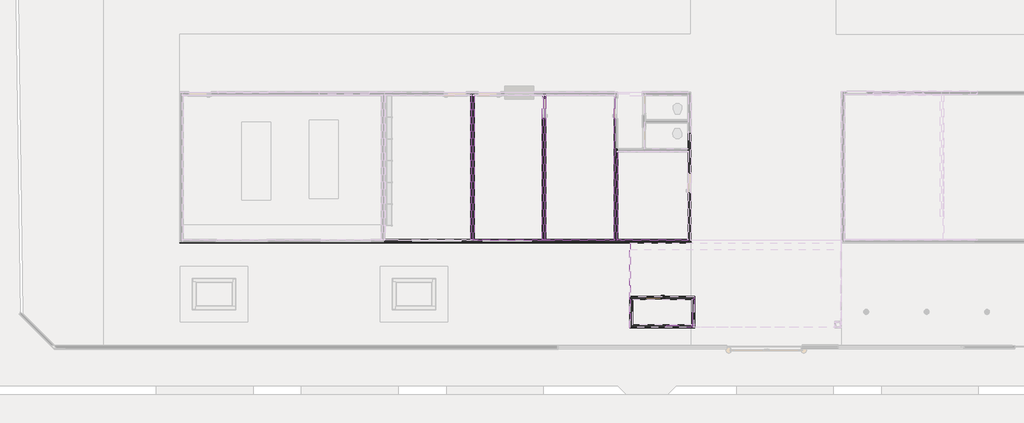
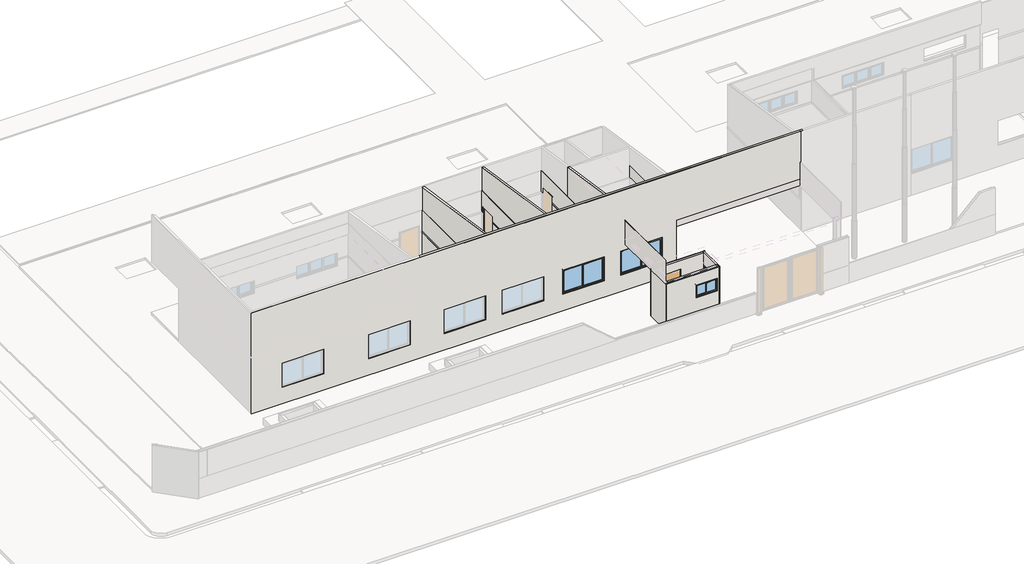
# One storey, part 3 of 28: 39 walls, 4 windows, 2 doors.
"""IFC4 building model written with IfcOpenShell, lengths in millimetres."""

from ifc_helpers import new_model, si_unit, frame, origin, place, context, project, spatial, polyline, outline, extrude, faceted_brep, transform, mapped, element, save
from components import door_95b59213, pf15_l82cm_686caa18, window_1x60_9757518d, window_2x1_20x1x10_9e9748dd

model = new_model("IFC4")

# Units and contexts
model_context = context("Model", 3, world=origin())
ifc_project = project(units=[si_unit("LENGTHUNIT", "METRE", prefix="MILLI")], contexts=[model_context])

# Site, building, storey
site = spatial("IfcSite", under=ifc_project)
building = spatial("IfcBuilding", under=site)
storey = spatial("IfcBuildingStorey", under=building, Name="Térreo", Elevation=0.0)

# Doors
placement = place(None, origin())
door_shape = door_95b59213(model_context)
element("IfcDoor", 1, ObjectType="FDE_SO_Soleiras1 : SO14_SoleiraRampadaDesnívelAté2cm_L=14cm_Cimentado 2", at=placement, inside=storey, context=model_context, shape_type="MappedRepresentation", body=[
    mapped(door_shape, transform((-35446.4091269, 2118.5326612, 0.0), x_axis=(-1.0, 0.0, 0.0), y_axis=(0.0, -1.0, 0.0), z_axis=(0.0, 0.0, 1.0))),
])
pf15_l82cm_shape = pf15_l82cm_686caa18(model_context)
element("IfcDoor", 2, ObjectType="FDE_PF15_PF16_PF17_PortaemChapadeFerro : PF15_L82cm", at=placement, inside=storey, context=model_context, shape_type="MappedRepresentation", body=[
    mapped(pf15_l82cm_shape, transform((-35446.4091269, 2123.5326612, 0.0), x_axis=(-1.0, 0.0, 0.0), y_axis=(0.0, -1.0, 0.0), z_axis=(0.0, 0.0, 1.0))),
])

# Walls
element("IfcWall", 3, ObjectType="FDE_S712_AlvenariadeTijoloCerâmico/Baiano_Alvenaria_9cm - Existente", at=placement, inside=storey, context=model_context, shape_type="Brep", body=[
    faceted_brep([(-34073.4091269, 4520.0000005, 3500.0), (-34073.4091269, 8930.0, 3500.0), (-34073.4091269, 8930.0, 0.0), (-34073.4091269, 7304.0, 0.0), (-34073.4091269, 7304.0, 220.0), (-34073.4091269, 7304.0, 1731.0528047), (-34073.4091269, 7304.0, 1824.9435125), (-34073.4091269, 7304.0, 2112.0), (-34073.4091269, 6470.0, 2112.0), (-34073.4091269, 6470.0, 1824.9435125), (-34073.4091269, 6470.0, 1731.0528047), (-34073.4091269, 6470.0, 220.0), (-34073.4091269, 6470.0, 0.0), (-34073.4091269, 4520.0000005, 0.0), (-33983.4091269, 8930.0, 3500.0), (-33983.4091269, 4520.0000005, 3500.0), (-33983.4091269, 4520.0000005, 0.0), (-33983.4091269, 6470.0, 0.0), (-33983.4091269, 6470.0, 2112.0), (-33983.4091269, 7304.0, 2112.0), (-33983.4091269, 7304.0, 0.0), (-33983.4091269, 8930.0, 0.0)], [[[0, 1, 2, 3, 4, 5, 6, 7, 8, 9, 10, 11, 12, 13]], [[14, 15, 16, 17, 18, 19, 20, 21]], [[16, 13, 12, 17]], [[2, 21, 20, 3]], [[1, 0, 15, 14]], [[2, 1, 14, 21]], [[19, 7, 6, 5, 4, 3, 20]], [[7, 19, 18, 8]], [[8, 18, 17, 12, 11, 10, 9]], [[13, 16, 15, 0]]]),
])
element("IfcWall", 4, ObjectType="FDE_S712_AlvenariadeTijoloCerâmico/Baiano_Alvenaria_9cm - Existente", at=placement, inside=storey, context=model_context, shape_type="SweptSolid", body=[
    extrude(outline(polyline([(0.0, -46653.4091269), (0.0, -34073.4091269), (3500.0, -34073.4091269), (3500.0, -46653.4091269), (0.0, -46653.4091269)]), holes=[polyline([(2235.0, -40538.4091269), (965.0, -40538.4091269), (965.0, -42608.4091269), (2235.0, -42608.4091269), (2235.0, -40538.4091269)]), polyline([(965.0, -39608.4091269), (2235.0, -39608.4091269), (2235.0, -37538.4091269), (965.0, -37538.4091269), (965.0, -39608.4091269)]), polyline([(965.0, -36708.4091269), (2235.0, -36708.4091269), (2235.0, -34638.4091269), (965.0, -34638.4091269), (965.0, -36708.4091269)]), polyline([(2235.0, -43438.4091269), (965.0, -43438.4091269), (965.0, -45508.4091269), (2235.0, -45508.4091269), (2235.0, -43438.4091269)])]), frame((0.0, 4430.0, 0.0), z_axis=(0.0, 1.0, 0.0), x_axis=(0.0, 0.0, 1.0)), (0.0, 0.0, 1.0), 90.0),
])
element("IfcWall", 5, ObjectType="FDE_S712_AlvenariadeTijoloCerâmico/Baiano_Alvenaria_9cm - Existente", at=placement, inside=storey, context=model_context, shape_type="Brep", body=[
    faceted_brep([(-46698.4091269, 4520.0000005, 5400.0), (-27614.5, 4520.0000005, 5400.0), (-27614.5, 4520.0000005, 3500.0), (-27720.0, 4520.0000005, 3500.0), (-27720.0, 4520.0000005, 2530.0), (-33953.4091269, 4520.0000005, 2530.0), (-33953.4091269, 4520.0000005, 1824.9435125), (-33953.4091269, 4520.0000005, 1731.0528047), (-33983.4091269, 4520.0000005, 1731.0528047), (-33983.4091269, 4520.0000005, 0.0), (-37023.4091269, 4520.0000005, 0.0), (-37113.4091269, 4520.0000005, 0.0), (-39993.4091269, 4520.0000005, 0.0), (-40083.4091269, 4520.0000005, 0.0), (-42963.4091269, 4520.0000005, 0.0), (-43053.4091269, 4520.0000005, 0.0), (-46653.4091269, 4520.0000005, 0.0), (-46653.4091269, 4520.0000005, 1824.9435125), (-46653.4091269, 4520.0000005, 2900.0), (-46653.4091269, 4520.0000005, 3500.0), (-46743.4091269, 4520.0000005, 3500.0), (-46743.4091269, 4520.0000005, 5000.0), (-46698.4091269, 4520.0000005, 5000.0), (-46698.4091269, 4520.0000005, 5045.0), (-36708.4091269, 4520.0000005, 2235.0), (-36708.4091269, 4520.0000005, 1824.9435125), (-36708.4091269, 4520.0000005, 1731.0528047), (-36708.4091269, 4520.0000005, 965.0), (-34638.4091269, 4520.0000005, 965.0), (-34638.4091269, 4520.0000005, 1731.0528047), (-34638.4091269, 4520.0000005, 1824.9435125), (-34638.4091269, 4520.0000005, 2235.0), (-43438.4091269, 4520.0000005, 965.0), (-43438.4091269, 4520.0000005, 1731.0528047), (-43438.4091269, 4520.0000005, 1824.9435125), (-43438.4091269, 4520.0000005, 2235.0), (-45508.4091269, 4520.0000005, 2235.0), (-45508.4091269, 4520.0000005, 1824.9435125), (-45508.4091269, 4520.0000005, 1731.0528047), (-45508.4091269, 4520.0000005, 965.0), (-39608.4091269, 4520.0000005, 2235.0), (-39608.4091269, 4520.0000005, 1824.9435125), (-39608.4091269, 4520.0000005, 1731.0528047), (-39608.4091269, 4520.0000005, 965.0), (-37538.4091269, 4520.0000005, 965.0), (-37538.4091269, 4520.0000005, 1731.0528047), (-37538.4091269, 4520.0000005, 1824.9435125), (-37538.4091269, 4520.0000005, 2235.0), (-40538.4091269, 4520.0000005, 965.0), (-40538.4091269, 4520.0000005, 1731.0528047), (-40538.4091269, 4520.0000005, 1824.9435125), (-40538.4091269, 4520.0000005, 2235.0), (-42608.4091269, 4520.0000005, 2235.0), (-42608.4091269, 4520.0000005, 1824.9435125), (-42608.4091269, 4520.0000005, 1731.0528047), (-42608.4091269, 4520.0000005, 965.0), (-27614.5, 4430.0000005, 5400.0), (-27735.0, 4430.0000005, 5400.0), (-33953.4091269, 4430.0000005, 5400.0), (-46698.4091269, 4430.0000005, 5400.0), (-46698.4091269, 4430.0000005, 5045.0), (-46698.4091269, 4430.0000005, 5000.0), (-46743.4091269, 4430.0000005, 5000.0), (-46743.4091269, 4430.0000005, 3500.0), (-46653.4091269, 4430.0000005, 3500.0), (-46653.4091269, 4430.0000005, 0.0), (-33983.4091269, 4430.0000005, 0.0), (-33983.4091269, 4430.0000005, 1731.0528047), (-33953.4091269, 4430.0000005, 1731.0528047), (-33953.4091269, 4430.0000005, 2530.0), (-27720.0, 4430.0000005, 2530.0), (-27720.0, 4430.0000005, 3500.0), (-27614.5, 4430.0000005, 3500.0), (-36708.4091269, 4430.0000005, 965.0), (-36708.4091269, 4430.0000005, 2235.0), (-34638.4091269, 4430.0000005, 2235.0), (-34638.4091269, 4430.0000005, 965.0), (-43438.4091269, 4430.0000005, 2235.0), (-43438.4091269, 4430.0000005, 965.0), (-45508.4091269, 4430.0000005, 965.0), (-45508.4091269, 4430.0000005, 2235.0), (-40538.4091269, 4430.0000005, 2235.0), (-40538.4091269, 4430.0000005, 965.0), (-42608.4091269, 4430.0000005, 965.0), (-42608.4091269, 4430.0000005, 2235.0), (-39608.4091269, 4430.0000005, 965.0), (-39608.4091269, 4430.0000005, 2235.0), (-37538.4091269, 4430.0000005, 2235.0), (-37538.4091269, 4430.0000005, 965.0)], [[[0, 1, 2, 3, 4, 5, 6, 7, 8, 9, 10, 11, 12, 13, 14, 15, 16, 17, 18, 19, 20, 21, 22, 23], [24, 25, 26, 27, 28, 29, 30, 31], [32, 33, 34, 35, 36, 37, 38, 39], [40, 41, 42, 43, 44, 45, 46, 47], [48, 49, 50, 51, 52, 53, 54, 55]], [[56, 57, 58, 59, 60, 61, 62, 63, 64, 65, 66, 67, 68, 69, 70, 71, 72], [73, 74, 75, 76], [77, 78, 79, 80], [81, 82, 83, 84], [85, 86, 87, 88]], [[19, 18, 17, 16, 65, 64]], [[1, 0, 59, 58, 57, 56]], [[20, 19, 64, 63]], [[59, 0, 23, 22, 61, 60]], [[61, 22, 21, 62]], [[20, 63, 62, 21]], [[5, 4, 70, 69]], [[16, 15, 14, 13, 12, 11, 10, 9, 66, 65]], [[68, 67, 8, 7]], [[9, 8, 67, 66]], [[7, 6, 5, 69, 68]], [[2, 72, 71, 3]], [[70, 4, 3, 71]], [[1, 56, 72, 2]], [[73, 27, 26, 25, 24, 74]], [[74, 24, 31, 75]], [[75, 31, 30, 29, 28, 76]], [[27, 73, 76, 28]], [[32, 78, 77, 35, 34, 33]], [[35, 77, 80, 36]], [[36, 80, 79, 39, 38, 37]], [[78, 32, 39, 79]], [[48, 82, 81, 51, 50, 49]], [[51, 81, 84, 52]], [[52, 84, 83, 55, 54, 53]], [[82, 48, 55, 83]], [[85, 43, 42, 41, 40, 86]], [[86, 40, 47, 87]], [[87, 47, 46, 45, 44, 88]], [[43, 85, 88, 44]]]),
])
element("IfcWall", 6, ObjectType="FDE_S712_AlvenariadeTijoloCerâmico/Baiano_Alvenaria_9cm - Existente", at=placement, inside=storey, context=model_context, shape_type="Brep", body=[
    faceted_brep([(-43053.4091269, 10547.3195082, 0.0), (-43053.4091269, 4520.0000005, 0.0), (-43053.4091269, 4520.0000005, 5007.4999999), (-43053.4091269, 10547.3195082, 4103.4020738), (-42963.4091269, 10547.3195082, 0.0), (-42963.4091269, 10547.3195082, 4103.4020738), (-42963.4091269, 4520.0000015, 5007.4999998), (-42963.4091269, 4520.0000005, 0.0)], [[[0, 1, 2, 3]], [[4, 5, 6, 7]], [[1, 0, 4, 7]], [[3, 2, 6, 5]], [[2, 1, 7, 6]], [[0, 3, 5, 4]]]),
])
element("IfcWall", 7, ObjectType="FDE_S712_AlvenariadeTijoloCerâmico/Baiano_Alvenaria_9cm - Existente", at=placement, inside=storey, context=model_context, shape_type="Brep", body=[
    faceted_brep([(-40083.4091269, 4520.0000005, 5007.4999999), (-40083.4091269, 10547.3195082, 4103.4020738), (-40083.4091269, 10547.3195082, 1824.9435125), (-40083.4091269, 10547.3195082, 1731.0528047), (-40083.4091269, 10547.3195082, 220.0), (-40083.4091269, 10547.3195082, 0.0), (-40083.4091269, 10400.0, 0.0), (-40083.4091269, 10400.0, 220.0), (-40083.4091269, 10400.0, 1731.0528047), (-40083.4091269, 10400.0, 1824.9435125), (-40083.4091269, 10400.0, 2112.0), (-40083.4091269, 9566.0, 2112.0), (-40083.4091269, 9566.0, 1824.9435125), (-40083.4091269, 9566.0, 1731.0528047), (-40083.4091269, 9566.0, 220.0), (-40083.4091269, 9566.0, 0.0), (-40083.4091269, 4520.0000005, 0.0), (-39993.4091269, 10547.3195082, 4103.4020738), (-39993.4091269, 4520.0000015, 5007.4999998), (-39993.4091269, 4520.0000005, 0.0), (-39993.4091269, 9566.0, 0.0), (-39993.4091269, 9566.0, 220.0), (-39993.4091269, 9566.0, 1731.0528047), (-39993.4091269, 9566.0, 1824.9435125), (-39993.4091269, 9566.0, 2112.0), (-39993.4091269, 10400.0, 2112.0), (-39993.4091269, 10400.0, 1824.9435125), (-39993.4091269, 10400.0, 1731.0528047), (-39993.4091269, 10400.0, 220.0), (-39993.4091269, 10400.0, 0.0), (-39993.4091269, 10547.3195082, 0.0), (-39993.4091269, 10547.3195082, 220.0), (-39993.4091269, 10547.3195082, 1731.0528047), (-39993.4091269, 10547.3195082, 1824.9435125)], [[[0, 1, 2, 3, 4, 5, 6, 7, 8, 9, 10, 11, 12, 13, 14, 15, 16]], [[17, 18, 19, 20, 21, 22, 23, 24, 25, 26, 27, 28, 29, 30, 31, 32, 33]], [[19, 16, 15, 20]], [[5, 30, 29, 6]], [[25, 10, 9, 8, 7, 6, 29, 28, 27, 26]], [[10, 25, 24, 11]], [[11, 24, 23, 22, 21, 20, 15, 14, 13, 12]], [[1, 0, 18, 17]], [[0, 16, 19, 18]], [[5, 4, 3, 2, 1, 17, 33, 32, 31, 30]]]),
])
element("IfcWall", 8, ObjectType="FDE_S712_AlvenariadeTijoloCerâmico/Baiano_Alvenaria_9cm - Existente", at=placement, inside=storey, context=model_context, shape_type="Brep", body=[
    faceted_brep([(-37113.4091269, 4520.0000005, 0.0), (-37113.4091269, 4520.0000005, 5007.4999999), (-37113.4091269, 8299.2493611, 4440.6125958), (-37113.4091269, 8299.2493611, 0.0), (-37023.4091269, 4520.0000015, 5007.4999998), (-37023.4091269, 4520.0000005, 0.0), (-37023.4091269, 8299.2493611, 0.0), (-37023.4091269, 8299.2493611, 4440.6125958)], [[[0, 1, 2, 3]], [[4, 5, 6, 7]], [[5, 0, 3, 6]], [[1, 4, 7, 2]], [[1, 0, 5, 4]], [[3, 2, 7, 6]]]),
])
element("IfcWall", 9, ObjectType="FDE_S712_AlvenariadeTijoloCerâmico/Baiano_Alvenaria_9cm - Existente", at=placement, inside=storey, context=model_context, shape_type="Brep", body=[
    faceted_brep([(-33923.4091269, 2078.5326612, 2580.8), (-36383.4091269, 2078.5326612, 2580.8), (-36473.4091269, 2078.5326612, 2580.8), (-36473.4091269, 2078.5326612, 0.0), (-36383.4091269, 2078.5326612, 0.0), (-35863.4091269, 2078.5326612, 0.0), (-35863.4091269, 2078.5326612, 2112.0), (-35029.4091269, 2078.5326612, 2112.0), (-35029.4091269, 2078.5326612, 0.0), (-33923.4091269, 2078.5326612, 0.0), (-36473.4091269, 2168.5326612, 2580.8), (-33923.4091269, 2168.5326612, 2580.8), (-33923.4091269, 2168.5326612, 0.0), (-35029.4091269, 2168.5326612, 0.0), (-35029.4091269, 2168.5326612, 2112.0), (-35863.4091269, 2168.5326612, 2112.0), (-35863.4091269, 2168.5326612, 0.0), (-36473.4091269, 2168.5326612, 0.0)], [[[0, 1, 2, 3, 4, 5, 6, 7, 8, 9]], [[10, 11, 12, 13, 14, 15, 16, 17]], [[3, 17, 16, 5, 4]], [[12, 9, 8, 13]], [[2, 1, 0, 11, 10]], [[3, 2, 10, 17]], [[0, 9, 12, 11]], [[15, 6, 5, 16]], [[6, 15, 14, 7]], [[7, 14, 13, 8]]]),
])
element("IfcWall", 10, ObjectType="FDE_S712_AlvenariadeTijoloCerâmico/Baiano_Alvenaria_9cm - Existente", at=placement, inside=storey, context=model_context, shape_type="Brep", body=[
    faceted_brep([(-36383.4091269, 928.5326612, 0.0), (-36383.4091269, 1018.5326612, 0.0), (-36383.4091269, 2078.5326612, 0.0), (-36383.4091269, 2078.5326612, 2580.8), (-36383.4091269, 1018.5326612, 2580.8), (-36383.4091269, 928.5326612, 2580.8), (-36473.4091269, 928.5326612, 0.0), (-36473.4091269, 928.5326612, 2580.8), (-36473.4091269, 2078.5326612, 2580.8), (-36473.4091269, 2078.5326612, 0.0)], [[[0, 1, 2, 3, 4, 5]], [[6, 7, 8, 9]], [[2, 1, 0, 6, 9]], [[5, 4, 3, 8, 7]], [[3, 2, 9, 8]], [[0, 5, 7, 6]]]),
])
element("IfcWall", 11, ObjectType="FDE_S712_AlvenariadeTijoloCerâmico/Baiano_Alvenaria_9cm - Existente", at=placement, inside=storey, context=model_context, shape_type="Brep", body=[
    faceted_brep([(-33833.4091269, 1018.5326612, 0.0), (-33923.4091269, 1018.5326612, 0.0), (-36383.4091269, 1018.5326612, 0.0), (-36383.4091269, 1018.5326612, 2580.8), (-33923.4091269, 1018.5326612, 2580.8), (-33833.4091269, 1018.5326612, 2580.8), (-33833.4091269, 1018.5326612, 1955.0), (-33923.4091269, 1018.5326612, 1955.0), (-34983.4091269, 1018.5326612, 1955.0), (-34983.4091269, 1018.5326612, 1285.0), (-33923.4091269, 1018.5326612, 1285.0), (-33833.4091269, 1018.5326612, 1285.0), (-36383.4091269, 928.5326612, 0.0), (-33833.4091269, 928.5326612, 0.0), (-33833.4091269, 928.5326612, 2530.0), (-33833.4091269, 928.5326612, 2580.8), (-36383.4091269, 928.5326612, 2580.8), (-34983.4091269, 928.5326612, 1285.0), (-34983.4091269, 928.5326612, 1955.0), (-33913.4091269, 928.5326612, 1955.0), (-33913.4091269, 928.5326612, 1285.0), (-33833.4091269, 1013.5326612, 1285.0), (-33833.4091269, 1013.5326612, 1955.0), (-33913.4091269, 1013.5326612, 1955.0), (-33913.4091269, 1013.5326612, 1285.0)], [[[0, 1, 2, 3, 4, 5, 6, 7, 8, 9, 10, 11]], [[12, 13, 14, 15, 16], [17, 18, 19, 20]], [[2, 1, 0, 13, 12]], [[5, 4, 3, 16, 15]], [[3, 2, 12, 16]], [[5, 15, 14, 13, 0, 11, 21, 22, 6]], [[18, 17, 9, 8]], [[19, 18, 8, 7, 6, 22, 23]], [[20, 19, 23, 24]], [[17, 20, 24, 21, 11, 10, 9]], [[23, 22, 21, 24]]]),
])
element("IfcWall", 12, ObjectType="FDE_S712_AlvenariadeTijoloCerâmico/Baiano_Alvenaria_9cm - Existente", at=placement, inside=storey, context=model_context, shape_type="Brep", body=[
    faceted_brep([(-33923.4091269, 2168.5326612, 0.0), (-33923.4091269, 2078.5326612, 0.0), (-33923.4091269, 1018.5326612, 0.0), (-33923.4091269, 1018.5326612, 1285.0), (-33923.4091269, 2083.5326612, 1285.0), (-33923.4091269, 2083.5326612, 1955.0), (-33923.4091269, 1018.5326612, 1955.0), (-33923.4091269, 1018.5326612, 2580.8), (-33923.4091269, 2078.5326612, 2580.8), (-33923.4091269, 2168.5326612, 2580.8), (-33833.4091269, 1018.5326612, 0.0), (-33833.4091269, 2168.5326612, 0.0), (-33833.4091269, 2168.5326612, 220.0), (-33833.4091269, 2168.5326612, 2530.0), (-33833.4091269, 2168.5326612, 2580.8), (-33833.4091269, 1018.5326612, 2580.8), (-33833.4091269, 1018.5326612, 1955.0), (-33833.4091269, 2083.5326612, 1955.0), (-33833.4091269, 2083.5326612, 1285.0), (-33833.4091269, 1018.5326612, 1285.0)], [[[0, 1, 2, 3, 4, 5, 6, 7, 8, 9]], [[10, 11, 12, 13, 14, 15, 16, 17, 18, 19]], [[2, 1, 0, 11, 10]], [[9, 8, 7, 15, 14]], [[0, 9, 14, 13, 12, 11]], [[2, 10, 19, 3]], [[15, 7, 6, 16]], [[5, 17, 16, 6]], [[17, 5, 4, 18]], [[18, 4, 3, 19]]]),
])
element("IfcWall", 13, ObjectType="ACM Verde Folha_Marquise", at=placement, inside=storey, context=model_context, shape_type="Brep", body=[
    faceted_brep([(-36483.4091269, 898.5326612, 3790.9420848), (-36483.4091269, 898.5326612, 2550.8), (-36483.4091269, 898.5326612, 2530.0), (-36483.4091269, 4400.0000017, 2530.0), (-36483.4091269, 4400.0000017, 3790.9420848), (-36483.4091269, 918.5326612, 3790.9420848), (-36503.4091269, 898.5326612, 2530.0), (-36503.4091269, 898.5326612, 3790.9420848), (-36503.4091269, 4400.0000017, 3790.9420848), (-36503.4091269, 4400.0000017, 2530.0)], [[[0, 1, 2, 3, 4, 5]], [[6, 7, 8, 9]], [[0, 7, 6, 2, 1]], [[3, 2, 6, 9]], [[0, 5, 4, 8, 7]], [[4, 3, 9, 8]]]),
])
element("IfcWall", 14, ObjectType="Pintura Externa - Tinta Acrílica Verbrás  Verde Água", at=placement, inside=storey, context=model_context, shape_type="Brep", body=[
    faceted_brep([(-33953.4091269, 4430.0000017, 0.0), (-33983.4091269, 4430.0000017, 0.0), (-34073.4091269, 4430.0000017, 0.0), (-46653.4091269, 4430.0000017, 0.0), (-46743.4091269, 4430.0000017, 0.0), (-55003.4091269, 4430.0000017, 0.0), (-55093.4091269, 4430.0000017, 0.0), (-55123.4091269, 4430.0000017, 0.0), (-55123.4091269, 4430.0000017, 5400.0), (-55093.4091269, 4430.0000017, 5400.0), (-46698.4091269, 4430.0000017, 5400.0), (-33953.4091269, 4430.0000017, 5400.0), (-27735.0, 4430.0000017, 5400.0), (-27735.0, 4430.0000017, 2891.0), (-33953.4091269, 4430.0000017, 2891.0), (-33953.4091269, 4430.0000017, 2530.0), (-33953.4091269, 4430.0000017, 1731.0528047), (-36708.4091269, 4430.0000017, 2235.0), (-36708.4091269, 4430.0000017, 965.0), (-34638.4091269, 4430.0000017, 965.0), (-34638.4091269, 4430.0000017, 2235.0), (-43438.4091269, 4430.0000017, 965.0), (-43438.4091269, 4430.0000017, 2235.0), (-45508.4091269, 4430.0000017, 2235.0), (-45508.4091269, 4430.0000017, 965.0), (-51518.4091269, 4430.0000017, 965.0), (-51518.4091269, 4430.0000017, 2235.0), (-53588.4091269, 4430.0000017, 2235.0), (-53588.4091269, 4430.0000017, 965.0), (-47208.4091269, 4430.0000017, 965.0), (-47208.4091269, 4430.0000017, 2235.0), (-49278.4091269, 4430.0000017, 2235.0), (-49278.4091269, 4430.0000017, 965.0), (-40538.4091269, 4430.0000017, 965.0), (-40538.4091269, 4430.0000017, 2235.0), (-42608.4091269, 4430.0000017, 2235.0), (-42608.4091269, 4430.0000017, 965.0), (-39608.4091269, 4430.0000017, 2235.0), (-39608.4091269, 4430.0000017, 965.0), (-37538.4091269, 4430.0000017, 965.0), (-37538.4091269, 4430.0000017, 2235.0), (-55123.4091269, 4400.0000017, 0.0), (-33953.4091269, 4400.0000017, 0.0), (-33953.4091269, 4400.0000017, 2891.0), (-27735.0, 4400.0000017, 2891.0), (-27735.0, 4400.0000017, 5400.0), (-33953.4091269, 4400.0000017, 5400.0), (-55123.4091269, 4400.0000017, 5400.0), (-36708.4091269, 4400.0000017, 965.0), (-36708.4091269, 4400.0000017, 2235.0), (-34638.4091269, 4400.0000017, 2235.0), (-34638.4091269, 4400.0000017, 965.0), (-43438.4091269, 4400.0000017, 2235.0), (-43438.4091269, 4400.0000017, 965.0), (-45508.4091269, 4400.0000017, 965.0), (-45508.4091269, 4400.0000017, 2235.0), (-51518.4091269, 4400.0000017, 2235.0), (-51518.4091269, 4400.0000017, 965.0), (-53588.4091269, 4400.0000017, 965.0), (-53588.4091269, 4400.0000017, 2235.0), (-47208.4091269, 4400.0000017, 2235.0), (-47208.4091269, 4400.0000017, 965.0), (-49278.4091269, 4400.0000017, 965.0), (-49278.4091269, 4400.0000017, 2235.0), (-40538.4091269, 4400.0000017, 2235.0), (-40538.4091269, 4400.0000017, 965.0), (-42608.4091269, 4400.0000017, 965.0), (-42608.4091269, 4400.0000017, 2235.0), (-39608.4091269, 4400.0000017, 965.0), (-39608.4091269, 4400.0000017, 2235.0), (-37538.4091269, 4400.0000017, 2235.0), (-37538.4091269, 4400.0000017, 965.0)], [[[0, 1, 2, 3, 4, 5, 6, 7, 8, 9, 10, 11, 12, 13, 14, 15, 16], [17, 18, 19, 20], [21, 22, 23, 24], [25, 26, 27, 28], [29, 30, 31, 32], [33, 34, 35, 36], [37, 38, 39, 40]], [[41, 42, 43, 44, 45, 46, 47], [48, 49, 50, 51], [52, 53, 54, 55], [56, 57, 58, 59], [60, 61, 62, 63], [64, 65, 66, 67], [68, 69, 70, 71]], [[8, 7, 41, 47]], [[7, 6, 5, 4, 3, 2, 1, 0, 42, 41]], [[11, 10, 9, 8, 47, 46]], [[12, 11, 46, 45]], [[13, 12, 45, 44]], [[14, 13, 44, 43]], [[0, 16, 15, 14, 43, 42]], [[48, 18, 17, 49]], [[49, 17, 20, 50]], [[50, 20, 19, 51]], [[18, 48, 51, 19]], [[21, 53, 52, 22]], [[22, 52, 55, 23]], [[23, 55, 54, 24]], [[53, 21, 24, 54]], [[25, 57, 56, 26]], [[26, 56, 59, 27]], [[27, 59, 58, 28]], [[57, 25, 28, 58]], [[29, 61, 60, 30]], [[30, 60, 63, 31]], [[31, 63, 62, 32]], [[61, 29, 32, 62]], [[33, 65, 64, 34]], [[34, 64, 67, 35]], [[35, 67, 66, 36]], [[65, 33, 36, 66]], [[68, 38, 37, 69]], [[69, 37, 40, 70]], [[70, 40, 39, 71]], [[38, 68, 71, 39]]]),
])
element("IfcWall", 15, ObjectType="Pintura Externa - Tinta Acrílica Verbrás  Verde Água", at=placement, inside=storey, context=model_context, shape_type="Brep", body=[
    faceted_brep([(-36498.4091269, 2168.5326612, 0.0), (-36468.4091269, 2168.5326612, 0.0), (-33803.4091269, 2168.5326612, 0.0), (-33803.4091269, 2168.5326612, 220.0), (-33803.4091269, 2168.5326612, 2530.0), (-33803.4091269, 2168.5326612, 2580.8), (-36498.4091269, 2168.5326612, 2580.8), (-36498.4091269, 2168.5326612, 2550.8), (-36498.4091269, 2198.5326612, 0.0), (-36498.4091269, 2198.5326612, 2580.8), (-33803.4091269, 2198.5326612, 2580.8), (-33803.4091269, 2198.5326612, 0.0)], [[[0, 1, 2, 3, 4, 5, 6, 7]], [[8, 9, 10, 11]], [[2, 1, 0, 8, 11]], [[6, 5, 10, 9]], [[5, 4, 3, 2, 11, 10]], [[0, 7, 6, 9, 8]]]),
])
element("IfcWall", 16, ObjectType="Pintura Externa - Tinta Acrílica Verbrás  Verde Água", at=placement, inside=storey, context=model_context, shape_type="Brep", body=[
    faceted_brep([(-33833.4091269, 2168.5326612, 220.0), (-33833.4091269, 898.5326612, 220.0), (-33833.4091269, 898.5326612, 2530.0), (-33833.4091269, 928.5326612, 2530.0), (-33833.4091269, 2168.5326612, 2530.0), (-33833.4091269, 2083.5326612, 1955.0), (-33833.4091269, 1018.5326612, 1955.0), (-33833.4091269, 1013.5326612, 1955.0), (-33833.4091269, 1013.5326612, 1285.0), (-33833.4091269, 1018.5326612, 1285.0), (-33833.4091269, 2083.5326612, 1285.0), (-33803.4091269, 898.5326612, 220.0), (-33803.4091269, 2168.5326612, 220.0), (-33803.4091269, 2168.5326612, 2530.0), (-33803.4091269, 898.5326612, 2530.0), (-33803.4091269, 1013.5326612, 1955.0), (-33803.4091269, 2083.5326612, 1955.0), (-33803.4091269, 2083.5326612, 1285.0), (-33803.4091269, 1013.5326612, 1285.0)], [[[0, 1, 2, 3, 4], [5, 6, 7, 8, 9, 10]], [[11, 12, 13, 14], [15, 16, 17, 18]], [[1, 0, 12, 11]], [[4, 3, 2, 14, 13]], [[0, 4, 13, 12]], [[2, 1, 11, 14]], [[15, 7, 6, 5, 16]], [[16, 5, 10, 17]], [[17, 10, 9, 8, 18]], [[7, 15, 18, 8]]]),
])
element("IfcWall", 17, ObjectType="Pintura Externa - Tinta Acrílica Verbrás  Verde Água", at=placement, inside=storey, context=model_context, shape_type="Brep", body=[
    faceted_brep([(-33833.4091269, 928.5326612, 0.0), (-36383.4091269, 928.5326612, 0.0), (-36468.4091269, 928.5326612, 0.0), (-36468.4091269, 928.5326612, 2530.0), (-33833.4091269, 928.5326612, 2530.0), (-34983.4091269, 928.5326612, 1285.0), (-33913.4091269, 928.5326612, 1285.0), (-33913.4091269, 928.5326612, 1955.0), (-34983.4091269, 928.5326612, 1955.0), (-33833.4091269, 898.5326612, 0.0), (-33833.4091269, 898.5326612, 220.0), (-33833.4091269, 898.5326612, 2530.0), (-36468.4091269, 898.5326612, 2530.0), (-36468.4091269, 898.5326612, 0.0), (-34983.4091269, 898.5326612, 1285.0), (-34983.4091269, 898.5326612, 1955.0), (-33913.4091269, 898.5326612, 1955.0), (-33913.4091269, 898.5326612, 1285.0), (-36468.4091269, 918.5326612, 2530.0)], [[[0, 1, 2, 3, 4], [5, 6, 7, 8]], [[9, 10, 11, 12, 13], [14, 15, 16, 17]], [[2, 1, 0, 9, 13]], [[4, 3, 18, 12, 11]], [[0, 4, 11, 10, 9]], [[3, 2, 13, 12, 18]], [[15, 14, 5, 8]], [[16, 15, 8, 7]], [[17, 16, 7, 6]], [[14, 17, 6, 5]]]),
])
element("IfcWall", 18, ObjectType="Pintura Externa - Tinta Acrílica Verbrás  Verde Água", at=placement, inside=storey, context=model_context, shape_type="Brep", body=[
    faceted_brep([(-36468.4091269, 898.5326612, 2550.8), (-36468.4091269, 898.5326612, 2530.0), (-36468.4091269, 898.5326612, 0.0), (-36468.4091269, 928.5326612, 0.0), (-36468.4091269, 2168.5326612, 0.0), (-36468.4091269, 2168.5326612, 2550.8), (-36468.4091269, 918.5326612, 2550.8), (-36498.4091269, 898.5326612, 0.0), (-36498.4091269, 898.5326612, 2550.8), (-36498.4091269, 2168.5326612, 2550.8), (-36498.4091269, 2168.5326612, 0.0), (-36483.4091269, 898.5326612, 2550.8)], [[[0, 1, 2, 3, 4, 5, 6]], [[7, 8, 9, 10]], [[4, 3, 2, 7, 10]], [[0, 6, 5, 9, 8, 11]], [[5, 4, 10, 9]], [[0, 11, 8, 7, 2, 1]]]),
])
element("IfcWall", 19, ObjectType="Pardes Internas_Pintura Acrílica Branco Neve 2", at=placement, inside=storey, context=model_context, shape_type="Brep", body=[
    faceted_brep([(-40083.4091269, 4520.0, 2900.0), (-42963.4091269, 4520.0, 2900.0), (-42963.4091269, 4520.0, 1824.9435125), (-42608.4091269, 4520.0, 1824.9435125), (-42608.4091269, 4520.0, 2235.0), (-40538.4091269, 4520.0, 2235.0), (-40538.4091269, 4520.0, 1824.9435125), (-40083.4091269, 4520.0, 1824.9435125), (-42963.4091269, 4551.0, 2900.0), (-42932.4091269, 4551.0, 2900.0), (-40114.4091269, 4551.0, 2900.0), (-40083.4091269, 4551.0, 2900.0), (-40083.4091269, 4551.0, 1824.9435125), (-40114.4091269, 4551.0, 1824.9435125), (-40538.4091269, 4551.0, 1824.9435125), (-40538.4091269, 4551.0, 2235.0), (-42608.4091269, 4551.0, 2235.0), (-42608.4091269, 4551.0, 1824.9435125), (-42932.4091269, 4551.0, 1824.9435125), (-42963.4091269, 4551.0, 1824.9435125)], [[[0, 1, 2, 3, 4, 5, 6, 7]], [[8, 9, 10, 11, 12, 13, 14, 15, 16, 17, 18, 19]], [[2, 19, 18, 17, 3]], [[12, 7, 6, 14, 13]], [[1, 0, 11, 10, 9, 8]], [[2, 1, 8, 19]], [[0, 7, 12, 11]], [[5, 15, 14, 6]], [[15, 5, 4, 16]], [[16, 4, 3, 17]]]),
])
element("IfcWall", 20, ObjectType="Pardes Internas_Pintura Acrílica Branco Neve 2", at=placement, inside=storey, context=model_context, shape_type="SweptSolid", body=[
    extrude(outline(polyline([(-43053.4091269, 10516.3195082), (-43053.4091269, 4551.0), (-43084.4091269, 4551.0), (-43084.4091269, 10516.3195082), (-43053.4091269, 10516.3195082)])), frame((0.0, 0.0, 1824.9435125), z_axis=(0.0, 0.0, 1.0), x_axis=(1.0, 0.0, 0.0)), (0.0, 0.0, 1.0), 1075.0564875),
])
element("IfcWall", 21, ObjectType="Pardes Internas_Pintura Acrílica Branco Neve 2", at=placement, inside=storey, context=model_context, shape_type="SweptSolid", body=[
    extrude(outline(polyline([(-42963.4091269, 4551.0), (-42963.4091269, 10516.3195082), (-42932.4091269, 10516.3195082), (-42932.4091269, 4551.0), (-42963.4091269, 4551.0)])), frame((0.0, 0.0, 1824.9435125), z_axis=(0.0, 0.0, 1.0), x_axis=(1.0, 0.0, 0.0)), (0.0, 0.0, 1.0), 1075.0564875),
])
element("IfcWall", 22, ObjectType="Pardes Internas_Pintura Acrílica Branco Neve 2", at=placement, inside=storey, context=model_context, shape_type="Brep", body=[
    faceted_brep([(-37113.4091269, 4520.0, 2900.0), (-39993.4091269, 4520.0, 2900.0), (-39993.4091269, 4520.0, 1824.9435125), (-39608.4091269, 4520.0, 1824.9435125), (-39608.4091269, 4520.0, 2235.0), (-37538.4091269, 4520.0, 2235.0), (-37538.4091269, 4520.0, 1824.9435125), (-37113.4091269, 4520.0, 1824.9435125), (-39993.4091269, 4551.0, 2900.0), (-39962.4091269, 4551.0, 2900.0), (-37144.4091269, 4551.0, 2900.0), (-37113.4091269, 4551.0, 2900.0), (-37113.4091269, 4551.0, 1824.9435125), (-37144.4091269, 4551.0, 1824.9435125), (-37538.4091269, 4551.0, 1824.9435125), (-37538.4091269, 4551.0, 2235.0), (-39608.4091269, 4551.0, 2235.0), (-39608.4091269, 4551.0, 1824.9435125), (-39962.4091269, 4551.0, 1824.9435125), (-39993.4091269, 4551.0, 1824.9435125)], [[[0, 1, 2, 3, 4, 5, 6, 7]], [[8, 9, 10, 11, 12, 13, 14, 15, 16, 17, 18, 19]], [[2, 19, 18, 17, 3]], [[12, 7, 6, 14, 13]], [[1, 0, 11, 10, 9, 8]], [[2, 1, 8, 19]], [[0, 7, 12, 11]], [[16, 4, 3, 17]], [[4, 16, 15, 5]], [[5, 15, 14, 6]]]),
])
element("IfcWall", 23, ObjectType="Pardes Internas_Pintura Acrílica Branco Neve 2", at=placement, inside=storey, context=model_context, shape_type="SweptSolid", body=[
    extrude(outline(polyline([(4551.0, 2900.0), (10516.3195082, 2900.0), (10516.3195082, 1824.9435125), (10400.0, 1824.9435125), (10400.0, 2112.0), (9566.0, 2112.0), (9566.0, 1824.9435125), (4551.0, 1824.9435125), (4551.0, 2900.0)])), frame((-40114.4091269, 0.0, 0.0), z_axis=(1.0, 0.0, 0.0), x_axis=(0.0, 1.0, 0.0)), (0.0, 0.0, 1.0), 31.0),
])
element("IfcWall", 24, ObjectType="Pardes Internas_Pintura Acrílica Branco Neve 2", at=placement, inside=storey, context=model_context, shape_type="SweptSolid", body=[
    extrude(outline(polyline([(4551.0, 2900.0), (10516.3195082, 2900.0), (10516.3195082, 1824.9435125), (10400.0, 1824.9435125), (10400.0, 2112.0), (9566.0, 2112.0), (9566.0, 1824.9435125), (4551.0, 1824.9435125), (4551.0, 2900.0)])), frame((-39993.4091269, 0.0, 0.0), z_axis=(1.0, 0.0, 0.0), x_axis=(0.0, 1.0, 0.0)), (0.0, 0.0, 1.0), 31.0),
])
element("IfcWall", 25, ObjectType="Pardes Internas_Pintura Acrílica Branco Neve 2", at=placement, inside=storey, context=model_context, shape_type="Brep", body=[
    faceted_brep([(-34073.4091269, 4520.0, 2900.0), (-37023.4091269, 4520.0, 2900.0), (-37023.4091269, 4520.0, 1824.9435125), (-36708.4091269, 4520.0, 1824.9435125), (-36708.4091269, 4520.0, 2235.0), (-34638.4091269, 4520.0, 2235.0), (-34638.4091269, 4520.0, 1824.9435125), (-34073.4091269, 4520.0, 1824.9435125), (-37023.4091269, 4551.0, 2900.0), (-36992.4091269, 4551.0, 2900.0), (-34104.4091269, 4551.0, 2900.0), (-34073.4091269, 4551.0, 2900.0), (-34073.4091269, 4551.0, 1824.9435125), (-34104.4091269, 4551.0, 1824.9435125), (-34638.4091269, 4551.0, 1824.9435125), (-34638.4091269, 4551.0, 2235.0), (-36708.4091269, 4551.0, 2235.0), (-36708.4091269, 4551.0, 1824.9435125), (-36992.4091269, 4551.0, 1824.9435125), (-37023.4091269, 4551.0, 1824.9435125), (-34073.4091269, 4550.0000005, 1824.9435125)], [[[0, 1, 2, 3, 4, 5, 6, 7]], [[8, 9, 10, 11, 12, 13, 14, 15, 16, 17, 18, 19]], [[2, 19, 18, 17, 3]], [[12, 20, 7, 6, 14, 13]], [[1, 0, 11, 10, 9, 8]], [[2, 1, 8, 19]], [[0, 7, 20, 12, 11]], [[16, 4, 3, 17]], [[4, 16, 15, 5]], [[5, 15, 14, 6]]]),
])
element("IfcWall", 26, ObjectType="Pardes Internas_Pintura Acrílica Branco Neve 2", at=placement, inside=storey, context=model_context, shape_type="SweptSolid", body=[
    extrude(outline(polyline([(4551.0, 2900.0), (10516.3195082, 2900.0), (10516.3195082, 1824.9435125), (10400.0, 1824.9435125), (10400.0, 2112.0), (9566.0, 2112.0), (9566.0, 1824.9435125), (4551.0, 1824.9435125), (4551.0, 2900.0)])), frame((-37144.4091269, 0.0, 0.0), z_axis=(1.0, 0.0, 0.0), x_axis=(0.0, 1.0, 0.0)), (0.0, 0.0, 1.0), 31.0),
])
element("IfcWall", 27, ObjectType="Pardes Internas_Pintura Acrílica Branco Neve 2", at=placement, inside=storey, context=model_context, shape_type="Brep", body=[
    faceted_brep([(-37023.4091269, 8209.2493611, 1824.9435125), (-37023.4091269, 4551.0, 1824.9435125), (-37023.4091269, 4551.0, 2900.0), (-37023.4091269, 8209.2493611, 2900.0), (-36992.4091269, 8209.2493611, 1824.9435125), (-36992.4091269, 8209.2493611, 2900.0), (-36992.4091269, 8178.2493611, 2900.0), (-36992.4091269, 4551.0, 2900.0), (-36992.4091269, 4551.0, 1824.9435125), (-36992.4091269, 8178.2493611, 1824.9435125)], [[[0, 1, 2, 3]], [[4, 5, 6, 7, 8, 9]], [[1, 0, 4, 9, 8]], [[3, 2, 7, 6, 5]], [[2, 1, 8, 7]], [[0, 3, 5, 4]]]),
])
element("IfcWall", 28, ObjectType="Revestimento Cerâmico 10x10cm", at=placement, inside=storey, context=model_context, shape_type="SweptSolid", body=[
    extrude(outline(polyline([(-37023.4091269, 4550.0000005), (-37023.4091269, 8209.2493611), (-36993.4091269, 8209.2493611), (-36993.4091269, 4550.0000005), (-37023.4091269, 4550.0000005)])), frame((0.0, 0.0, 220.0), z_axis=(0.0, 0.0, 1.0), x_axis=(1.0, 0.0, 0.0)), (0.0, 0.0, 1.0), 1511.0528047),
])
element("IfcWall", 29, ObjectType="Revestimento Cerâmico 10x10cm", at=placement, inside=storey, context=model_context, shape_type="SweptSolid", body=[
    extrude(outline(polyline([(-39963.4091269, 4550.0000005), (-39993.4091269, 4550.0000005), (-39993.4091269, 9566.0), (-39963.4091269, 9566.0), (-39963.4091269, 4550.0000005)])), frame((0.0, 0.0, 220.0), z_axis=(0.0, 0.0, 1.0), x_axis=(1.0, 0.0, 0.0)), (0.0, 0.0, 1.0), 1511.0528047),
    extrude(outline(polyline([(-39993.4091269, 10547.3195082), (-39963.4091269, 10547.3195082), (-39963.4091269, 10400.0), (-39993.4091269, 10400.0), (-39993.4091269, 10547.3195082)])), frame((0.0, 0.0, 220.0), z_axis=(0.0, 0.0, 1.0), x_axis=(1.0, 0.0, 0.0)), (0.0, 0.0, 1.0), 1511.0528047),
])
element("IfcWall", 30, ObjectType="Revestimento Cerâmico 10x10cm", at=placement, inside=storey, context=model_context, shape_type="SweptSolid", body=[
    extrude(outline(polyline([(-42963.4091269, 4550.0000005), (-42963.4091269, 10547.3195082), (-42933.4091269, 10547.3195082), (-42933.4091269, 4550.0000005), (-42963.4091269, 4550.0000005)])), frame((0.0, 0.0, 220.0), z_axis=(0.0, 0.0, 1.0), x_axis=(1.0, 0.0, 0.0)), (0.0, 0.0, 1.0), 1511.0528047),
])
element("IfcWall", 31, ObjectType="Revestimento Cerâmico 10x10cm", at=placement, inside=storey, context=model_context, shape_type="SweptSolid", body=[
    extrude(outline(polyline([(-43053.4091269, 10547.3195082), (-43053.4091269, 4550.0000005), (-43083.4091269, 4550.0000005), (-43083.4091269, 10547.3195082), (-43053.4091269, 10547.3195082)])), frame((0.0, 0.0, 220.0), z_axis=(0.0, 0.0, 1.0), x_axis=(1.0, 0.0, 0.0)), (0.0, 0.0, 1.0), 1511.0528047),
])
element("IfcWall", 32, ObjectType="Revestimento Cerâmico 10x10cm", at=placement, inside=storey, context=model_context, shape_type="SweptSolid", body=[
    extrude(outline(polyline([(-40083.4091269, 4550.0000005), (-40113.4091269, 4550.0000005), (-40113.4091269, 9566.0), (-40083.4091269, 9566.0), (-40083.4091269, 4550.0000005)])), frame((0.0, 0.0, 220.0), z_axis=(0.0, 0.0, 1.0), x_axis=(1.0, 0.0, 0.0)), (0.0, 0.0, 1.0), 1511.0528047),
])
element("IfcWall", 33, ObjectType="Revestimento Cerâmico 10x10cm", at=placement, inside=storey, context=model_context, shape_type="SweptSolid", body=[
    extrude(outline(polyline([(-37113.4091269, 4550.0000005), (-37143.4091269, 4550.0000005), (-37143.4091269, 9566.0), (-37113.4091269, 9566.0), (-37113.4091269, 4550.0000005)])), frame((0.0, 0.0, 220.0), z_axis=(0.0, 0.0, 1.0), x_axis=(1.0, 0.0, 0.0)), (0.0, 0.0, 1.0), 1511.0528047),
])
element("IfcWall", 34, ObjectType="Faixa - Revestimento Cerâmico Verde Folha 10x10cm", at=placement, inside=storey, context=model_context, shape_type="SweptSolid", body=[
    extrude(outline(polyline([(-37113.4091269, 4550.0000005), (-37143.4091269, 4550.0000005), (-37143.4091269, 9566.0), (-37113.4091269, 9566.0), (-37113.4091269, 4550.0000005)])), frame((0.0, 0.0, 1731.0528047), z_axis=(0.0, 0.0, 1.0), x_axis=(1.0, 0.0, 0.0)), (0.0, 0.0, 1.0), 93.8907079),
])
element("IfcWall", 35, ObjectType="Faixa - Revestimento Cerâmico Verde Folha 10x10cm", at=placement, inside=storey, context=model_context, shape_type="SweptSolid", body=[
    extrude(outline(polyline([(-40083.4091269, 4550.0000005), (-40113.4091269, 4550.0000005), (-40113.4091269, 9566.0), (-40083.4091269, 9566.0), (-40083.4091269, 4550.0000005)])), frame((0.0, 0.0, 1731.0528047), z_axis=(0.0, 0.0, 1.0), x_axis=(1.0, 0.0, 0.0)), (0.0, 0.0, 1.0), 93.8907079),
])
element("IfcWall", 36, ObjectType="Faixa - Revestimento Cerâmico Verde Folha 10x10cm", at=placement, inside=storey, context=model_context, shape_type="SweptSolid", body=[
    extrude(outline(polyline([(-43053.4091269, 10547.3195082), (-43053.4091269, 4550.0000005), (-43083.4091269, 4550.0000005), (-43083.4091269, 10547.3195082), (-43053.4091269, 10547.3195082)])), frame((0.0, 0.0, 1731.0528047), z_axis=(0.0, 0.0, 1.0), x_axis=(1.0, 0.0, 0.0)), (0.0, 0.0, 1.0), 93.8907079),
])
element("IfcWall", 37, ObjectType="Faixa - Revestimento Cerâmico Verde Folha 10x10cm", at=placement, inside=storey, context=model_context, shape_type="SweptSolid", body=[
    extrude(outline(polyline([(-42963.4091269, 4550.0000005), (-42963.4091269, 10547.3195082), (-42933.4091269, 10547.3195082), (-42933.4091269, 4550.0000005), (-42963.4091269, 4550.0000005)])), frame((0.0, 0.0, 1731.0528047), z_axis=(0.0, 0.0, 1.0), x_axis=(1.0, 0.0, 0.0)), (0.0, 0.0, 1.0), 93.8907079),
])
element("IfcWall", 38, ObjectType="Faixa - Revestimento Cerâmico Verde Folha 10x10cm", at=placement, inside=storey, context=model_context, shape_type="SweptSolid", body=[
    extrude(outline(polyline([(-39963.4091269, 4550.0000005), (-39993.4091269, 4550.0000005), (-39993.4091269, 9566.0), (-39963.4091269, 9566.0), (-39963.4091269, 4550.0000005)])), frame((0.0, 0.0, 1731.0528047), z_axis=(0.0, 0.0, 1.0), x_axis=(1.0, 0.0, 0.0)), (0.0, 0.0, 1.0), 93.8907079),
    extrude(outline(polyline([(-39993.4091269, 10547.3195082), (-39963.4091269, 10547.3195082), (-39963.4091269, 10400.0), (-39993.4091269, 10400.0), (-39993.4091269, 10547.3195082)])), frame((0.0, 0.0, 1731.0528047), z_axis=(0.0, 0.0, 1.0), x_axis=(1.0, 0.0, 0.0)), (0.0, 0.0, 1.0), 93.8907079),
])
element("IfcWall", 39, ObjectType="Faixa - Revestimento Cerâmico Verde Folha 10x10cm", at=placement, inside=storey, context=model_context, shape_type="SweptSolid", body=[
    extrude(outline(polyline([(-37023.4091269, 4550.0000005), (-37023.4091269, 8209.2493611), (-36993.4091269, 8209.2493611), (-36993.4091269, 4550.0000005), (-37023.4091269, 4550.0000005)])), frame((0.0, 0.0, 1731.0528047), z_axis=(0.0, 0.0, 1.0), x_axis=(1.0, 0.0, 0.0)), (0.0, 0.0, 1.0), 93.8907079),
])
element("IfcWall", 40, ObjectType="Revestimento Cerâmico 10x10cm", at=placement, inside=storey, context=model_context, shape_type="Brep", body=[
    faceted_brep([(-46623.4091269, 4520.0000005, 220.0), (-34073.4091269, 4520.0000005, 220.0), (-34073.4091269, 4520.0000005, 1731.0528047), (-34638.4091269, 4520.0000005, 1731.0528047), (-34638.4091269, 4520.0000005, 965.0), (-36708.4091269, 4520.0000005, 965.0), (-36708.4091269, 4520.0000005, 1731.0528047), (-37538.4091269, 4520.0000005, 1731.0528047), (-37538.4091269, 4520.0000005, 965.0), (-39608.4091269, 4520.0000005, 965.0), (-39608.4091269, 4520.0000005, 1731.0528047), (-40538.4091269, 4520.0000005, 1731.0528047), (-40538.4091269, 4520.0000005, 965.0), (-42608.4091269, 4520.0000005, 965.0), (-42608.4091269, 4520.0000005, 1731.0528047), (-43438.4091269, 4520.0000005, 1731.0528047), (-43438.4091269, 4520.0000005, 965.0), (-45508.4091269, 4520.0000005, 965.0), (-45508.4091269, 4520.0000005, 1731.0528047), (-46623.4091269, 4520.0000005, 1731.0528047), (-34073.4091269, 4550.0000005, 220.0), (-34103.4091269, 4550.0000005, 220.0), (-36993.4091269, 4550.0000005, 220.0), (-37023.4091269, 4550.0000005, 220.0), (-37113.4091269, 4550.0000005, 220.0), (-37143.4091269, 4550.0000005, 220.0), (-39963.4091269, 4550.0000005, 220.0), (-39993.4091269, 4550.0000005, 220.0), (-40083.4091269, 4550.0000005, 220.0), (-40113.4091269, 4550.0000005, 220.0), (-42933.4091269, 4550.0000005, 220.0), (-42963.4091269, 4550.0000005, 220.0), (-43053.4091269, 4550.0000005, 220.0), (-43083.4091269, 4550.0000005, 220.0), (-46623.4091269, 4550.0000005, 220.0), (-46623.4091269, 4550.0000005, 1731.0528047), (-45508.4091269, 4550.0000005, 1731.0528047), (-45508.4091269, 4550.0000005, 965.0), (-43438.4091269, 4550.0000005, 965.0), (-43438.4091269, 4550.0000005, 1731.0528047), (-43083.4091269, 4550.0000005, 1731.0528047), (-43053.4091269, 4550.0000005, 1731.0528047), (-42963.4091269, 4550.0000005, 1731.0528047), (-42933.4091269, 4550.0000005, 1731.0528047), (-42608.4091269, 4550.0000005, 1731.0528047), (-42608.4091269, 4550.0000005, 965.0), (-40538.4091269, 4550.0000005, 965.0), (-40538.4091269, 4550.0000005, 1731.0528047), (-40113.4091269, 4550.0000005, 1731.0528047), (-40083.4091269, 4550.0000005, 1731.0528047), (-39993.4091269, 4550.0000005, 1731.0528047), (-39963.4091269, 4550.0000005, 1731.0528047), (-39608.4091269, 4550.0000005, 1731.0528047), (-39608.4091269, 4550.0000005, 965.0), (-37538.4091269, 4550.0000005, 965.0), (-37538.4091269, 4550.0000005, 1731.0528047), (-37143.4091269, 4550.0000005, 1731.0528047), (-37113.4091269, 4550.0000005, 1731.0528047), (-37023.4091269, 4550.0000005, 1731.0528047), (-36993.4091269, 4550.0000005, 1731.0528047), (-36708.4091269, 4550.0000005, 1731.0528047), (-36708.4091269, 4550.0000005, 965.0), (-34638.4091269, 4550.0000005, 965.0), (-34638.4091269, 4550.0000005, 1731.0528047), (-34103.4091269, 4550.0000005, 1731.0528047), (-34073.4091269, 4550.0000005, 1731.0528047)], [[[0, 1, 2, 3, 4, 5, 6, 7, 8, 9, 10, 11, 12, 13, 14, 15, 16, 17, 18, 19]], [[20, 21, 22, 23, 24, 25, 26, 27, 28, 29, 30, 31, 32, 33, 34, 35, 36, 37, 38, 39, 40, 41, 42, 43, 44, 45, 46, 47, 48, 49, 50, 51, 52, 53, 54, 55, 56, 57, 58, 59, 60, 61, 62, 63, 64, 65]], [[1, 0, 34, 33, 32, 31, 30, 29, 28, 27, 26, 25, 24, 23, 22, 21, 20]], [[2, 65, 64, 63, 3]], [[6, 60, 59, 58, 57, 56, 55, 7]], [[10, 52, 51, 50, 49, 48, 47, 11]], [[14, 44, 43, 42, 41, 40, 39, 15]], [[35, 19, 18, 36]], [[2, 1, 20, 65]], [[5, 61, 60, 6]], [[62, 4, 3, 63]], [[61, 5, 4, 62]], [[9, 53, 52, 10]], [[54, 8, 7, 55]], [[53, 9, 8, 54]], [[46, 12, 11, 47]], [[13, 45, 44, 14]], [[12, 46, 45, 13]], [[38, 16, 15, 39]], [[17, 37, 36, 18]], [[16, 38, 37, 17]], [[0, 19, 35, 34]]]),
])
element("IfcWall", 41, ObjectType="Faixa - Revestimento Cerâmico Verde Folha 10x10cm", at=placement, inside=storey, context=model_context, shape_type="Brep", body=[
    faceted_brep([(-34088.9091269, 4520.0000005, 1731.0528047), (-34088.9091269, 4520.0000005, 1824.9435125), (-34638.4091269, 4520.0000005, 1824.9435125), (-34638.4091269, 4520.0000005, 1731.0528047), (-34088.9091269, 4550.0000005, 1824.9435125), (-34088.9091269, 4550.0000005, 1731.0528047), (-34103.4091269, 4550.0000005, 1731.0528047), (-34638.4091269, 4550.0000005, 1731.0528047), (-34638.4091269, 4550.0000005, 1824.9435125), (-34103.4091269, 4550.0000005, 1824.9435125)], [[[0, 1, 2, 3]], [[4, 5, 6, 7, 8, 9]], [[5, 0, 3, 7, 6]], [[1, 0, 5, 4]], [[1, 4, 9, 8, 2]], [[3, 2, 8, 7]]]),
    faceted_brep([(-36708.4091269, 4520.0000005, 1731.0528047), (-36708.4091269, 4520.0000005, 1824.9435125), (-37538.4091269, 4520.0000005, 1824.9435125), (-37538.4091269, 4520.0000005, 1731.0528047), (-36708.4091269, 4550.0000005, 1824.9435125), (-36708.4091269, 4550.0000005, 1731.0528047), (-36993.4091269, 4550.0000005, 1731.0528047), (-37023.4091269, 4550.0000005, 1731.0528047), (-37113.4091269, 4550.0000005, 1731.0528047), (-37143.4091269, 4550.0000005, 1731.0528047), (-37538.4091269, 4550.0000005, 1731.0528047), (-37538.4091269, 4550.0000005, 1824.9435125), (-37143.4091269, 4550.0000005, 1824.9435125), (-37113.4091269, 4550.0000005, 1824.9435125), (-37023.4091269, 4550.0000005, 1824.9435125), (-36993.4091269, 4550.0000005, 1824.9435125)], [[[0, 1, 2, 3]], [[4, 5, 6, 7, 8, 9, 10, 11, 12, 13, 14, 15]], [[5, 0, 3, 10, 9, 8, 7, 6]], [[1, 4, 15, 14, 13, 12, 11, 2]], [[1, 0, 5, 4]], [[3, 2, 11, 10]]]),
    faceted_brep([(-39608.4091269, 4520.0000005, 1731.0528047), (-39608.4091269, 4520.0000005, 1824.9435125), (-40538.4091269, 4520.0000005, 1824.9435125), (-40538.4091269, 4520.0000005, 1731.0528047), (-39608.4091269, 4550.0000005, 1824.9435125), (-39608.4091269, 4550.0000005, 1731.0528047), (-39963.4091269, 4550.0000005, 1731.0528047), (-39993.4091269, 4550.0000005, 1731.0528047), (-40083.4091269, 4550.0000005, 1731.0528047), (-40113.4091269, 4550.0000005, 1731.0528047), (-40538.4091269, 4550.0000005, 1731.0528047), (-40538.4091269, 4550.0000005, 1824.9435125), (-40113.4091269, 4550.0000005, 1824.9435125), (-40083.4091269, 4550.0000005, 1824.9435125), (-39993.4091269, 4550.0000005, 1824.9435125), (-39963.4091269, 4550.0000005, 1824.9435125)], [[[0, 1, 2, 3]], [[4, 5, 6, 7, 8, 9, 10, 11, 12, 13, 14, 15]], [[5, 0, 3, 10, 9, 8, 7, 6]], [[1, 4, 15, 14, 13, 12, 11, 2]], [[1, 0, 5, 4]], [[3, 2, 11, 10]]]),
])

# Windows
window_1x60_shape = window_1x60_9757518d(model_context)
element("IfcWindow", 42, ObjectType="JANELA COM ESQUADRIA DE CORRER - 2 FOLHAS : 1x60", at=placement, inside=storey, context=model_context, shape_type="MappedRepresentation", body=[
    mapped(window_1x60_shape, transform((-33879.2849664, 1419.1291102, 320.0), x_axis=(0.0, 1.0, 0.0), y_axis=(-1.0, 0.0, 0.0), z_axis=(0.0, 0.0, 1.0))),
])
element("IfcWindow", 43, ObjectType="JANELA COM ESQUADRIA DE CORRER - 2 FOLHAS : 1x60", at=placement, inside=storey, context=model_context, shape_type="MappedRepresentation", body=[
    mapped(window_1x60_shape, transform((-34577.8126778, 974.4085007, 320.0), x_axis=(1.0, 0.0, 0.0), y_axis=(0.0, 1.0, 0.0), z_axis=(0.0, 0.0, 1.0))),
])
window_2x1_20x1x10_shape = window_2x1_20x1x10_9e9748dd(model_context)
element("IfcWindow", 44, ObjectType="JANELA COM ESQUADRIA DE CORRER - 2 FOLHAS : 2x1.20x1x10", at=placement, inside=storey, context=model_context, shape_type="MappedRepresentation", body=[
    mapped(window_2x1_20x1x10_shape, transform((-35802.8126778, 4475.87584, 0.0), x_axis=(1.0, 0.0, 0.0), y_axis=(0.0, 1.0, 0.0), z_axis=(0.0, 0.0, 1.0))),
])
element("IfcWindow", 45, ObjectType="JANELA COM ESQUADRIA DE CORRER - 2 FOLHAS : 2x1.20x1x10", at=placement, inside=storey, context=model_context, shape_type="MappedRepresentation", body=[
    mapped(window_2x1_20x1x10_shape, transform((-38702.8126778, 4475.87584, 0.0), x_axis=(1.0, 0.0, 0.0), y_axis=(0.0, 1.0, 0.0), z_axis=(0.0, 0.0, 1.0))),
])

save(model, "model.ifc")
